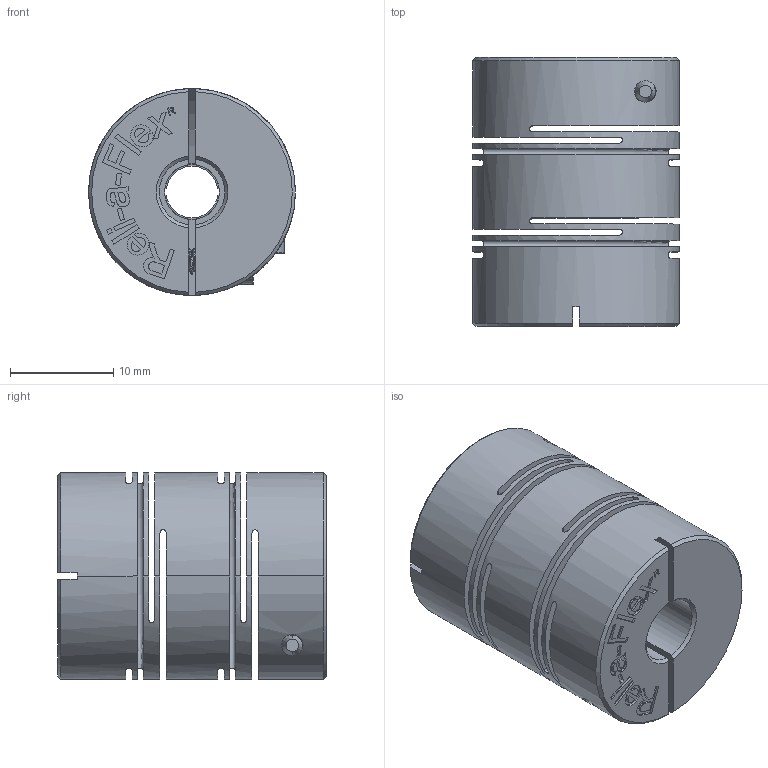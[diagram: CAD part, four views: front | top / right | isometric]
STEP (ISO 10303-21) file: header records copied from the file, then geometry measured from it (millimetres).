
FILE_DESCRIPTION (( 'STEP AP203' ), '1' );
FILE_NAME ('RCLA20C-0.250-5.STEP', '2012-04-26T13:29:38', ( 'render' ), ( '' ), 'SwSTEP 2.0', 'SolidWorks 2011', '' );
FILE_SCHEMA (( 'CONFIG_CONTROL_DESIGN' ));
Length unit declared in the file: millimetre
Products named in the file (1): RCLA20C-0.250-5
Bounding box: 20 x 26 x 20 mm (x, y, z)
Volume: 6216.2 mm3; surface area: 7078.4 mm2
Topology: 3 solids, 3 shells, 357 faces, 967 edges, 640 vertices
Faces by surface type: plane 158, cylinder 157, cone 18, torus 16, bspline 8
Entity records: 21052 total; most frequent: CARTESIAN_POINT 12290, ORIENTED_EDGE 1934, DIRECTION 1698, EDGE_CURVE 967, VERTEX_POINT 640, AXIS2_PLACEMENT_3D 595, VECTOR 508, LINE 508
